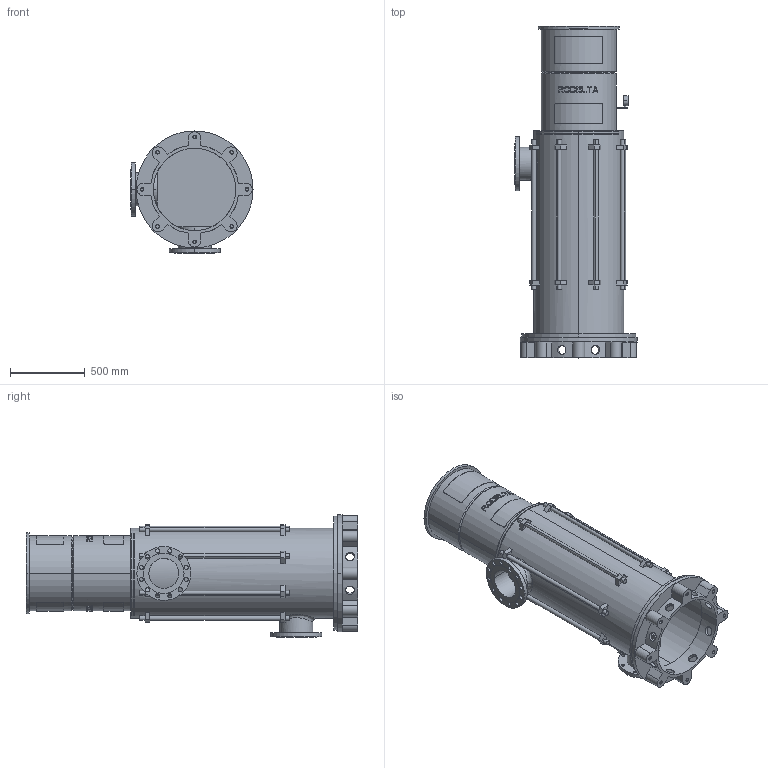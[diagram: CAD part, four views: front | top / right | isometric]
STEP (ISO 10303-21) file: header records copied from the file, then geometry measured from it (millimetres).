
FILE_DESCRIPTION((''),'2;1');
FILE_NAME('LS8_3TR_0GR','2025-10-17T13:42:40',('Lyritlocal'),(''),'CREO PARAMETRIC BY PTC INC, 2022014','CREO PARAMETRIC BY PTC INC, 2022014','');
FILE_SCHEMA(('CONFIG_CONTROL_DESIGN'));
Length unit declared in the file: millimetre
Products named in the file (1): LS8_3TR_0GR
Bounding box: 815 x 2214 x 815 mm (x, y, z)
Volume: 77041278.2 mm3; surface area: 10861973.5 mm2
Topology: 3 solids, 11 shells, 723 faces, 1880 edges, 1246 vertices
Faces by surface type: plane 440, cylinder 267, cone 12, bspline 4
Entity records: 23720 total; most frequent: CARTESIAN_POINT 6031, ORIENTED_EDGE 3728, DIRECTION 3490, EDGE_CURVE 1880, AXIS2_PLACEMENT_3D 1302, VERTEX_POINT 1246, VECTOR 886, LINE 886
